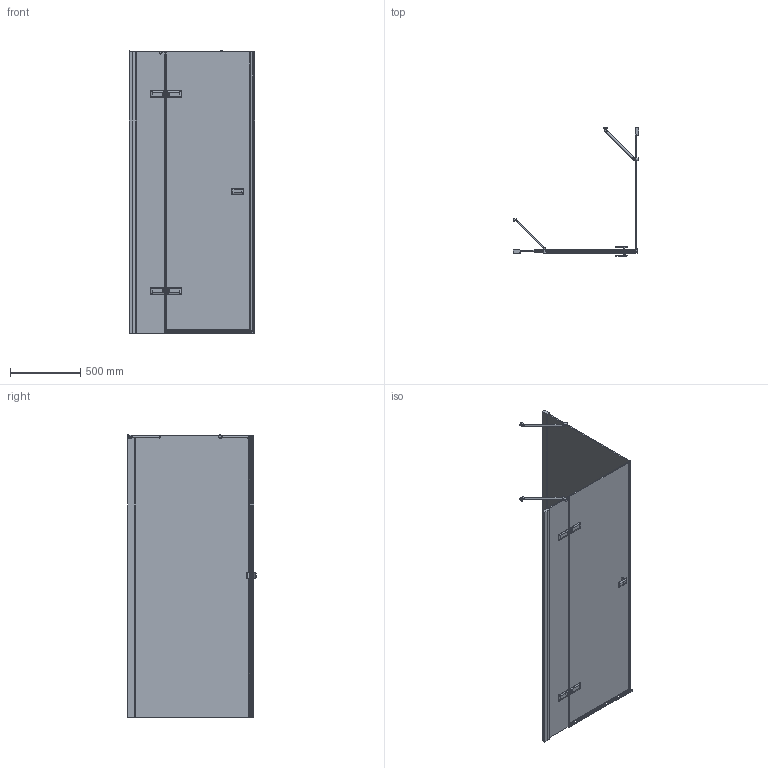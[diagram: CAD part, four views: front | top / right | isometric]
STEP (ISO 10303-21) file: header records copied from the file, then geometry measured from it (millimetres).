
FILE_DESCRIPTION(/* description */ (''),/* implementation_level */ '2;1');
FILE_NAME(/* name */ 'E:\Работа\Сергей\Душевые кабинки\! Работа\TREND SQUARE GK-863PONE\TREND SQUARE GK-863PONE левая модель\TREND SQUARE GK-863PONE ЛЕВАЯ-3D.stp',/* time_stamp */ '2017-08-09T20:19:08+03:00',/* author */ ('PC'),/* organization */ (''),/* preprocessor_version */ 'ST-DEVELOPER v15.2',/* originating_system */ 'Autodesk Inventor 2014',/* authorisation */ '');
FILE_SCHEMA (('AUTOMOTIVE_DESIGN { 1 0 10303 214 3 1 1 }'));
Products named in the file (1): TREND SQUARE GK-863PONE ЛЕВАЯ-3
D
Bounding box: 893.94 x 912.64 x 2009.49 mm (x, y, z)
Volume: 31932953.5 mm3; surface area: 7411362.7 mm2
Topology: 6 solids, 6 shells, 1357 faces, 3588 edges, 2218 vertices
Faces by surface type: plane 844, cylinder 317, bspline 136, torus 33, cone 16, sphere 11
Full cylindrical faces by diameter (mm): 9 x8, 15 x2, 20 x4, 26 x2
Entity records: 58757 total; most frequent: CARTESIAN_POINT 24608, ORIENTED_EDGE 7006, DIRECTION 6599, EDGE_CURVE 3503, VERTEX_POINT 2202, AXIS2_PLACEMENT_3D 2200, LINE 2199, VECTOR 2199
